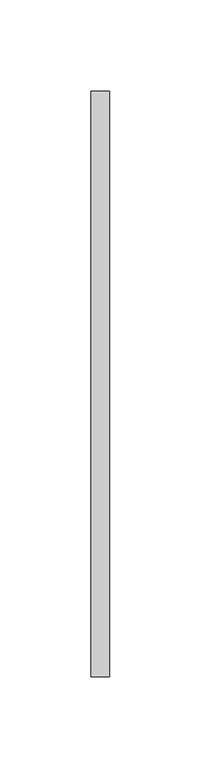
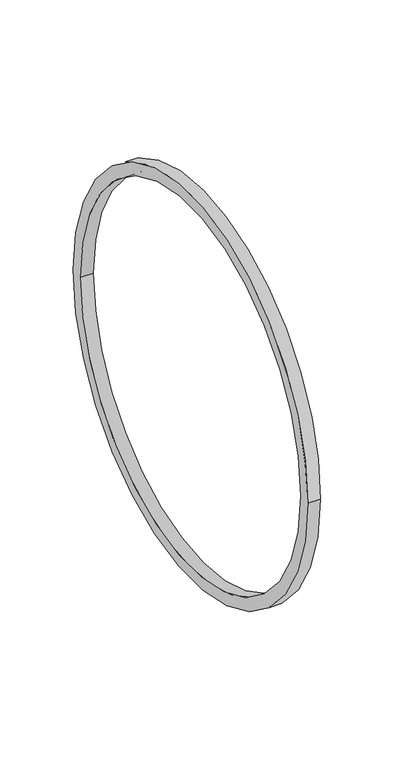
"""IFC4 building model written with IfcOpenShell, lengths in millimetres: duct fitting geometry, BL_НиппельВоздуховдов_Круглый : BL_НиппельВоздуховдов_Круглый."""

import ifcopenshell
import ifcopenshell.guid

model = None  # the IFC model being written
_history = None  # IfcOwnerHistory: only IFC2X3 demands one
_inside = {}  # id of a spatial element -> (the spatial element, [elements in it])
_under = {}  # id of a project, library or spatial element -> (it, [spatial elements below it])
_declared = {}  # id of a project -> (the project, [libraries it declares])
_typed = {}  # id of a type object -> (the type object, [elements of that type])
_made_of = {}  # id of a material, layer set ... -> (it, [elements and type objects made of it])


def new_model(schema):
    """Start an empty IFC model of exactly this schema.

    Asked for "IFC4X3", IfcOpenShell would pick the latest addendum, in which some entities
    have other attributes; the version numbers below select the first issue.
    IFC2X3 requires an IfcOwnerHistory on every rooted entity: one is made here for all.
    """
    global model, _history
    if schema == "IFC4X3":
        model = ifcopenshell.file(schema_version=(4, 3, 0, 0))
    else:
        model = ifcopenshell.file(schema=schema)
    _inside.clear()
    _under.clear()
    _declared.clear()
    _typed.clear()
    _made_of.clear()
    _history = None
    if model.schema == "IFC2X3":
        org = make("IfcOrganization", Name="unknown")
        user = make(
            "IfcPersonAndOrganization",
            ThePerson=make("IfcPerson", FamilyName="unknown"),
            TheOrganization=org,
        )
        app = make(
            "IfcApplication",
            ApplicationDeveloper=org,
            Version="unknown",
            ApplicationFullName="unknown",
            ApplicationIdentifier="unknown",
        )
        _history = make(
            "IfcOwnerHistory",
            OwningUser=user,
            OwningApplication=app,
            ChangeAction="ADDED",
            CreationDate=0,
        )
    return model


def make(cls, **values):
    """One entity of the class cls with the attributes given. An attribute that is None is left unset."""
    return model.create_entity(
        cls, **{name: value for name, value in values.items() if value is not None}
    )


def rooted(cls, **values):
    """An entity with a GlobalId (a new one), such as an element, a storey or a relation."""
    return make(cls, GlobalId=ifcopenshell.guid.new(), OwnerHistory=_history, **values)


def si_unit(unit_type, name, prefix=None):
    """IfcSIUnit, for example si_unit("LENGTHUNIT", "METRE", prefix="MILLI")."""
    return make("IfcSIUnit", UnitType=unit_type, Prefix=prefix, Name=name)


def assignment(units):
    """IfcUnitAssignment: the units of a project."""
    return None if units is None else make("IfcUnitAssignment", Units=units)


def point(xyz):
    """IfcCartesianPoint."""
    return None if xyz is None else make("IfcCartesianPoint", Coordinates=xyz)


def direction(xyz):
    """IfcDirection."""
    return None if xyz is None else make("IfcDirection", DirectionRatios=xyz)


def frame(location, z_axis=None, x_axis=None):
    """IfcAxis2Placement3D, a coordinate frame: its origin and axes. An axis left out is left unset."""
    return make(
        "IfcAxis2Placement3D",
        Location=point(location),
        Axis=direction(z_axis),
        RefDirection=direction(x_axis),
    )


def frame_2d(location, x_axis=None):
    """IfcAxis2Placement2D, a coordinate frame in the plane: its origin and x axis."""
    return make(
        "IfcAxis2Placement2D", Location=point(location), RefDirection=direction(x_axis)
    )


def origin():
    """The frame at (0, 0, 0) with its axes left unset."""
    return frame((0.0, 0.0, 0.0))


def place(relative_to, where):
    """IfcLocalPlacement: puts the frame where relative to a parent placement (None: the world)."""
    return make(
        "IfcLocalPlacement", PlacementRelTo=relative_to, RelativePlacement=where
    )


def context(
    kind, dimensions, precision=None, world=None, true_north=None, identifier=None
):
    """IfcGeometricRepresentationContext, for example the 3D "Model" context."""
    return make(
        "IfcGeometricRepresentationContext",
        ContextIdentifier=identifier,
        ContextType=kind,
        CoordinateSpaceDimension=dimensions,
        Precision=precision,
        WorldCoordinateSystem=world,
        TrueNorth=true_north,
    )


def project(units=None, contexts=None):
    """IfcProject with its units and contexts."""
    return rooted(
        "IfcProject",
        Name="project",
        RepresentationContexts=contexts,
        UnitsInContext=assignment(units),
    )


def spatial(cls, under=None, at=None, **own):
    """A site, building, storey or space (cls), placed at a placement, below another one or the project."""
    s = rooted(cls, ObjectPlacement=at, **own)
    if under is not None:
        _under.setdefault(under.id(), (under, []))[1].append(s)
    return s


def circle_curve(where, radius):
    """IfcCircle in the frame where."""
    return make("IfcCircle", Position=where, Radius=radius)


def trimmed(basis, trim1, trim2, sense, master):
    """IfcTrimmedCurve: the piece of a basis curve between two trims."""
    return make(
        "IfcTrimmedCurve",
        BasisCurve=basis,
        Trim1=trim1,
        Trim2=trim2,
        SenseAgreement=sense,
        MasterRepresentation=master,
    )


def segment(curve, same_sense, transition):
    """IfcCompositeCurveSegment."""
    return make(
        "IfcCompositeCurveSegment",
        Transition=transition,
        SameSense=same_sense,
        ParentCurve=curve,
    )


def composite_curve(segments, self_intersect=None):
    """IfcCompositeCurve: segments joined end to end."""
    return make("IfcCompositeCurve", Segments=segments, SelfIntersect=self_intersect)


def outline(outer, holes=None, kind="AREA"):
    """IfcArbitraryClosedProfileDef: a profile drawn as a closed curve; with holes, ...WithVoids."""
    if holes is None:
        return make("IfcArbitraryClosedProfileDef", ProfileType=kind, OuterCurve=outer)
    return make(
        "IfcArbitraryProfileDefWithVoids",
        ProfileType=kind,
        OuterCurve=outer,
        InnerCurves=holes,
    )


def extrude(swept, where, along, depth):
    """IfcExtrudedAreaSolid: the profile swept, set in the frame where, extruded along a direction by depth."""
    return make(
        "IfcExtrudedAreaSolid",
        SweptArea=swept,
        Position=where,
        ExtrudedDirection=direction(along),
        Depth=depth,
    )


def shape(context_of_items, identifier, shape_type, items):
    """IfcShapeRepresentation: the items that make up one representation, for example the "Body"."""
    return make(
        "IfcShapeRepresentation",
        ContextOfItems=context_of_items,
        RepresentationIdentifier=identifier,
        RepresentationType=shape_type,
        Items=items,
    )


def source(mapping_origin, context_of_items, identifier, shape_type, items):
    """IfcRepresentationMap: a shape defined once, which mapped items show again and again."""
    return make(
        "IfcRepresentationMap",
        MappingOrigin=mapping_origin,
        MappedRepresentation=shape(context_of_items, identifier, shape_type, items),
    )


def transform(
    local_origin,
    x_axis=None,
    y_axis=None,
    z_axis=None,
    scale=None,
    scale2=None,
    scale3=None,
    uniform=True,
):
    """IfcCartesianTransformationOperator3D, or its non-uniform kind. x_axis, y_axis, z_axis: its Axis1, 2, 3."""
    if uniform:
        return make(
            "IfcCartesianTransformationOperator3D",
            Axis1=direction(x_axis),
            Axis2=direction(y_axis),
            LocalOrigin=point(local_origin),
            Scale=scale,
            Axis3=direction(z_axis),
        )
    return make(
        "IfcCartesianTransformationOperator3DnonUniform",
        Axis1=direction(x_axis),
        Axis2=direction(y_axis),
        LocalOrigin=point(local_origin),
        Scale=scale,
        Axis3=direction(z_axis),
        Scale2=scale2,
        Scale3=scale3,
    )


def mapped(mapping_source, mapping_target):
    """IfcMappedItem: shows the shape of a source again, moved by a transform."""
    return make(
        "IfcMappedItem", MappingSource=mapping_source, MappingTarget=mapping_target
    )


def made_of(thing, what):
    """Note that an element or type object is made of a material, layer set ...; save() writes the relation."""
    if what is not None:
        _made_of.setdefault(what.id(), (what, []))[1].append(thing)
    return thing


def element(
    cls,
    number,
    at=None,
    inside=None,
    cuts=None,
    type_object=None,
    material=None,
    context=None,
    identifier="Body",
    shape_type=None,
    held_by="IfcProductDefinitionShape",
    body=None,
    shapes=None,
    **own,
):
    """One element of the class cls, such as IfcWall. Its Tag is "e" and its number.

    at: its placement. inside: the storey or other place that contains it. cuts: it is an
    opening in that element (IfcRelVoidsElement). A single representation is given by context,
    identifier, shape_type and body (its items); several are given by shapes. held_by: the class
    of the entity that holds the representations. save() writes the other relations.
    """
    e = rooted(cls, Tag="e%d" % number, ObjectPlacement=at, **own)
    if body is not None:
        shapes = [shape(context, identifier, shape_type, body)]
    if shapes is not None:
        e.Representation = make(held_by, Representations=shapes)
    if inside is not None:
        _inside.setdefault(inside.id(), (inside, []))[1].append(e)
    if cuts is not None:
        rooted(
            "IfcRelVoidsElement", RelatingBuildingElement=cuts, RelatedOpeningElement=e
        )
    if type_object is not None:
        _typed.setdefault(type_object.id(), (type_object, []))[1].append(e)
    return made_of(e, material)


def aggregate(whole, parts):
    """IfcRelAggregates: a whole, such as a stair, and the parts it consists of."""
    return rooted("IfcRelAggregates", RelatingObject=whole, RelatedObjects=parts)


def save(model, path):
    """Write the relations noted so far, then the file.

    IfcRelAggregates (storeys below a building ...), IfcRelContainedInSpatialStructure (elements
    in a storey), IfcRelDefinesByType, IfcRelAssociatesMaterial and IfcRelDeclares: one each for
    every whole, place, type object, material and project.
    """
    for whole, parts in _under.values():
        aggregate(whole, parts)
    for where, things in _inside.values():
        rooted(
            "IfcRelContainedInSpatialStructure",
            RelatedElements=things,
            RelatingStructure=where,
        )
    for kind, things in _typed.values():
        rooted("IfcRelDefinesByType", RelatedObjects=things, RelatingType=kind)
    for what, things in _made_of.values():
        rooted("IfcRelAssociatesMaterial", RelatedObjects=things, RelatingMaterial=what)
    for by, libraries in _declared.values():
        rooted("IfcRelDeclares", RelatingContext=by, RelatedDefinitions=libraries)
    model.write(path)


def duct_fitting_766df063(model_context):
    return source(origin(), model_context, "Body", "SweptSolid", [
        extrude(outline(composite_curve([segment(trimmed(circle_curve(frame_2d((-45.6742229, 0.0)), 160.0), [point((-205.6742229, 0.0))], [point((114.3257771, 0.0))], False, "CARTESIAN"), True, "CONTINUOUS"), segment(trimmed(circle_curve(frame_2d((-45.6742229, 0.0)), 160.0), [point((114.3257771, 0.0))], [point((-205.6742229, 0.0))], False, "CARTESIAN"), True, "CONTINUOUS")], self_intersect=False), holes=[composite_curve([segment(trimmed(circle_curve(frame_2d((-45.6742229, 0.0)), 150.0), [point((-195.6742229, 0.0))], [point((104.3257771, 0.0))], True, "CARTESIAN"), True, "CONTINUOUS"), segment(trimmed(circle_curve(frame_2d((-45.6742229, 0.0)), 150.0), [point((104.3257771, 0.0))], [point((-195.6742229, 0.0))], True, "CARTESIAN"), True, "CONTINUOUS")], self_intersect=False)]), frame((-5.0, 0.0, 0.0), z_axis=(1.0, 0.0, 0.0), x_axis=(0.0, 1.0, 0.0)), (0.0, 0.0, 1.0), 10.0),
    ])


if __name__ == "__main__":
    model = new_model("IFC4")
    model_context = context("Model", 3, world=origin())
    ifc_project = project(units=[si_unit("LENGTHUNIT", "METRE", prefix="MILLI")], contexts=[model_context])
    site = spatial("IfcSite", under=ifc_project)
    building = spatial("IfcBuilding", under=site)
    placement = place(None, origin())
    duct_fitting_shape = duct_fitting_766df063(model_context)
    element("IfcDuctFitting", 1, ObjectType="BL_НиппельВоздуховдов_Круглый : BL_НиппельВоздуховдов_Круглый", at=placement, inside=building, context=model_context, shape_type="MappedRepresentation", body=[
        mapped(duct_fitting_shape, transform((0.0, 0.0, 0.0), x_axis=(1.0, 0.0, 0.0), y_axis=(0.0, 1.0, 0.0), z_axis=(0.0, 0.0, 1.0))),
    ])
    save(model, "model.ifc")
